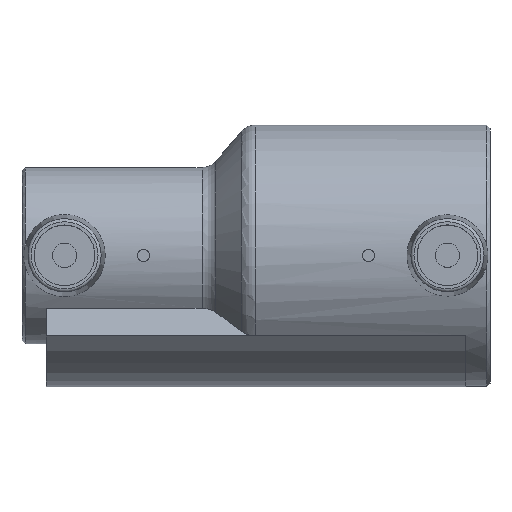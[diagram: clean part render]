
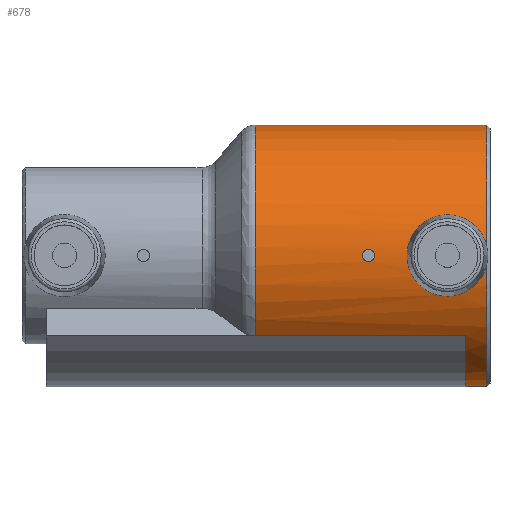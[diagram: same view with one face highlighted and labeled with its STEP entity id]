
A CAD part, top view. The second image highlights one B-rep face of the part: STEP entity #678.
In plain terms, the highlighted cylindrical face has radius 21.5 mm (diameter 43 mm), a full revolution.
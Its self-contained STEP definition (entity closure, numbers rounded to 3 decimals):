
#54=LINE('',#1144,#89);
#55=LINE('',#1149,#90);
#89=VECTOR('',#849,1000.);
#90=VECTOR('',#852,1000.);
#125=CIRCLE('',#744,21.5);
#126=CIRCLE('',#745,21.5);
#127=CIRCLE('',#746,21.5);
#175=ORIENTED_EDGE('',*,*,#357,.F.);
#176=ORIENTED_EDGE('',*,*,#358,.T.);
#177=ORIENTED_EDGE('',*,*,#359,.T.);
#178=ORIENTED_EDGE('',*,*,#360,.T.);
#179=ORIENTED_EDGE('',*,*,#361,.F.);
#180=ORIENTED_EDGE('',*,*,#362,.T.);
#181=ORIENTED_EDGE('',*,*,#363,.F.);
#182=ORIENTED_EDGE('',*,*,#364,.T.);
#357=EDGE_CURVE('',#448,#449,#508,.T.);
#358=EDGE_CURVE('',#448,#449,#125,.T.);
#359=EDGE_CURVE('',#450,#451,#509,.T.);
#360=EDGE_CURVE('',#451,#450,#510,.T.);
#361=EDGE_CURVE('',#452,#453,#54,.T.);
#362=EDGE_CURVE('',#452,#454,#126,.T.);
#363=EDGE_CURVE('',#455,#454,#55,.F.);
#364=EDGE_CURVE('',#455,#453,#127,.T.);
#448=VERTEX_POINT('',#1125);
#449=VERTEX_POINT('',#1126);
#450=VERTEX_POINT('',#1135);
#451=VERTEX_POINT('',#1136);
#452=VERTEX_POINT('',#1145);
#453=VERTEX_POINT('',#1146);
#454=VERTEX_POINT('',#1148);
#455=VERTEX_POINT('',#1150);
#508=B_SPLINE_CURVE_WITH_KNOTS('',3,(#1107,#1108,#1109,#1110,#1111,#1112,
#1113,#1114,#1115,#1116,#1117,#1118,#1119,#1120,#1121,#1122,#1123,#1124),
 .UNSPECIFIED.,.F.,.F.,(4,1,1,1,1,1,1,1,1,1,1,1,1,1,1,4),(0.,
0.002,0.005,0.007,0.01,
0.012,0.015,0.017,0.02,
0.022,0.024,0.027,0.029,
0.032,0.034,0.039),.UNSPECIFIED.);
#509=B_SPLINE_CURVE_WITH_KNOTS('',3,(#1128,#1129,#1130,#1131,#1132,#1133,
#1134),.UNSPECIFIED.,.F.,.F.,(4,1,1,1,4),(0.003,0.004,
0.005,0.005,0.006),
 .UNSPECIFIED.);
#510=B_SPLINE_CURVE_WITH_KNOTS('',3,(#1137,#1138,#1139,#1140,#1141,#1142,
#1143),.UNSPECIFIED.,.F.,.F.,(4,1,1,1,4),(0.,0.001,0.002,
0.002,0.003),.UNSPECIFIED.);
#519=EDGE_LOOP('',(#175,#176));
#520=EDGE_LOOP('',(#177,#178));
#521=EDGE_LOOP('',(#179,#180,#181,#182));
#591=FACE_BOUND('',#519,.T.);
#592=FACE_BOUND('',#520,.T.);
#593=FACE_BOUND('',#521,.T.);
#661=CYLINDRICAL_SURFACE('',#743,21.5);
#678=ADVANCED_FACE('',(#591,#592,#593),#661,.T.);
#743=AXIS2_PLACEMENT_3D('',#1106,#845,#846);
#744=AXIS2_PLACEMENT_3D('',#1127,#847,#848);
#745=AXIS2_PLACEMENT_3D('',#1147,#850,#851);
#746=AXIS2_PLACEMENT_3D('',#1151,#853,#854);
#845=DIRECTION('',(-1.,0.,0.));
#846=DIRECTION('',(0.,0.,1.));
#847=DIRECTION('',(-1.,0.,0.));
#848=DIRECTION('',(0.,0.,1.));
#849=DIRECTION('',(-1.,0.,0.));
#850=DIRECTION('',(1.,0.,0.));
#851=DIRECTION('',(0.,0.,-1.));
#852=DIRECTION('',(-1.,0.,0.));
#853=DIRECTION('',(1.,0.,0.));
#854=DIRECTION('',(0.,0.,-1.));
#1106=CARTESIAN_POINT('',(-60.,0.,0.));
#1107=CARTESIAN_POINT('',(38.5,1.393,21.455));
#1108=CARTESIAN_POINT('',(38.329,2.201,21.402));
#1109=CARTESIAN_POINT('',(37.698,3.72,21.21));
#1110=CARTESIAN_POINT('',(36.007,5.518,20.798));
#1111=CARTESIAN_POINT('',(33.78,6.598,20.465));
#1112=CARTESIAN_POINT('',(31.286,6.8,20.396));
#1113=CARTESIAN_POINT('',(28.899,6.081,20.633));
#1114=CARTESIAN_POINT('',(26.951,4.57,21.036));
#1115=CARTESIAN_POINT('',(25.661,2.464,21.401));
#1116=CARTESIAN_POINT('',(25.202,0.01,21.549));
#1117=CARTESIAN_POINT('',(25.655,-2.449,21.403));
#1118=CARTESIAN_POINT('',(26.944,-4.563,21.038));
#1119=CARTESIAN_POINT('',(28.891,-6.076,20.634));
#1120=CARTESIAN_POINT('',(31.274,-6.799,20.396));
#1121=CARTESIAN_POINT('',(33.77,-6.601,20.464));
#1122=CARTESIAN_POINT('',(36.748,-5.162,20.91));
#1123=CARTESIAN_POINT('',(38.158,-3.008,21.35));
#1124=CARTESIAN_POINT('',(38.5,-1.393,21.455));
#1125=CARTESIAN_POINT('',(38.5,1.393,21.455));
#1126=CARTESIAN_POINT('',(38.5,-1.393,21.455));
#1127=CARTESIAN_POINT('',(38.5,0.,0.));
#1128=CARTESIAN_POINT('',(18.,0.,21.5));
#1129=CARTESIAN_POINT('',(18.,0.261,21.5));
#1130=CARTESIAN_POINT('',(18.216,0.783,21.488));
#1131=CARTESIAN_POINT('',(18.999,1.109,21.471));
#1132=CARTESIAN_POINT('',(19.783,0.783,21.488));
#1133=CARTESIAN_POINT('',(20.,0.264,21.5));
#1134=CARTESIAN_POINT('',(20.,0.,21.5));
#1135=CARTESIAN_POINT('',(18.,0.,21.5));
#1136=CARTESIAN_POINT('',(20.,0.,21.5));
#1137=CARTESIAN_POINT('',(20.,0.,21.5));
#1138=CARTESIAN_POINT('',(20.,-0.264,21.5));
#1139=CARTESIAN_POINT('',(19.783,-0.782,21.488));
#1140=CARTESIAN_POINT('',(19.001,-1.108,21.471));
#1141=CARTESIAN_POINT('',(18.216,-0.784,21.488));
#1142=CARTESIAN_POINT('',(18.,-0.261,21.5));
#1143=CARTESIAN_POINT('',(18.,0.,21.5));
#1144=CARTESIAN_POINT('',(-60.,-13.179,16.987));
#1145=CARTESIAN_POINT('',(35.,-13.179,16.987));
#1146=CARTESIAN_POINT('',(0.38,-13.179,16.987));
#1147=CARTESIAN_POINT('',(35.,0.,0.));
#1148=CARTESIAN_POINT('',(35.,-21.5,0.));
#1149=CARTESIAN_POINT('',(-60.,-21.5,0.));
#1150=CARTESIAN_POINT('',(0.38,-21.5,0.));
#1151=CARTESIAN_POINT('',(0.38,0.,0.));
